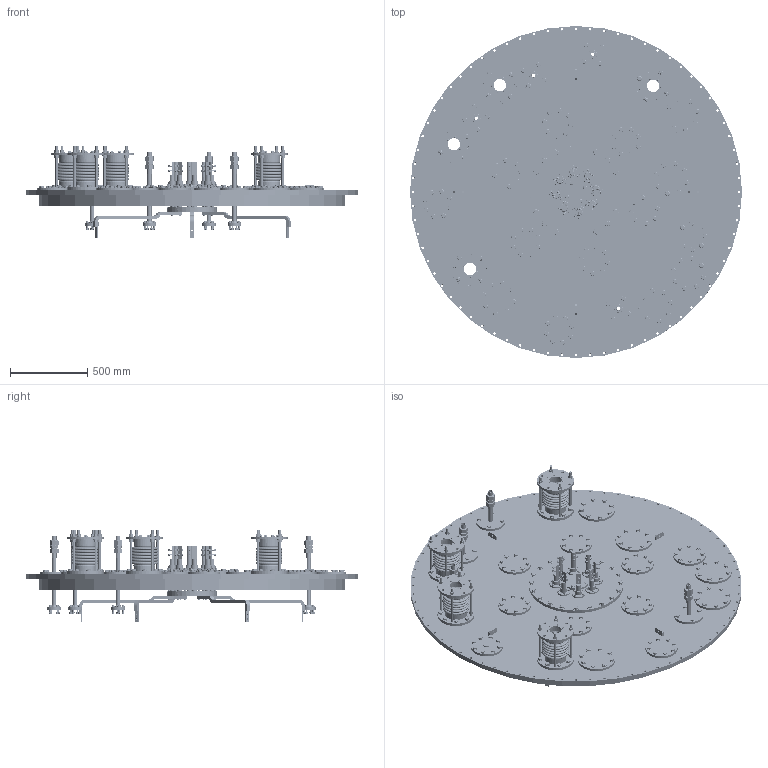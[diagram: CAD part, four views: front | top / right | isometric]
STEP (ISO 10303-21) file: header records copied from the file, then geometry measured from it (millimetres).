
FILE_DESCRIPTION(('CATIA V5 STEP Exchange'),'2;1');
FILE_NAME('V:\enea.it\fra\user\micozzi\CATIA\LoadAssembly_ASG\Modelli_Montati_1-12-08\FLANGIA_SUPERIORE_Completa.stp','2010-10-27T13:21:35+00:00',('none'),('none'),'CATIA Version 5 Release 19 SP 2 (IN-10)','CATIA V5 STEP AP203','none');
FILE_SCHEMA(('CONFIG_CONTROL_DESIGN'));
Length unit declared in the file: millimetre
Products named in the file (34): asm flangia superiore cdv; asm flangia passanti superiori; asm passante elettrico; vite M8 + rondella; bullone M8; Raccolto asm passante elettrico di Matrice circolare.2; vite M16 + rondella; Raccolto vite M16 + rondella di Matrice circolare.1; vite M12 + rondella; Raccolto vite M12 + rondella di Matrice circolare.1; asm flangia cieca DN100; vite M16 + rondella_1; Raccolto vite M16 + rondella di Matrice circolare.1_1; Raccolto asm flangia cieca DN100 di Matrice circolare.2; asm flangia cieca DN125; Product1; Raccolto Product1 di Matrice circolare.1; soffietto DN125; vite M16+rondella; Raccolto vite M16+rondella di Matrice circolare.1; puntone; asm vite isolata bobina; Raccolto asm vite isolata bobina di Matrice circolare.2; Raccolto ISO 4026 SCREW M5x16 GRADE A STEEL HEX SOCKET SET WITH FLAT POINT di Matrice circolare.5; bullone M6; Raccolto bullone M6 di Matrice circolare.2; Raccolto bullone M6 di Matrice circolare.21; passante fluidi; vite su flangia DN80; bullone su flangia DN20; Raccolto bullone su flangia DN20 di Matrice circolare.1; Raccolto vite su flangia DN80 di Matrice circolare.1; flangia cieca DN100 con passante; Raccolto vite M16 + rondella di Matrice circolare.11
Assembly tree (208 placements, depth 6):
  asm flangia superiore cdv
    #58
    asm flangia passanti superiori
      #42294
      asm passante elettrico
        #49795
        #51305
        vite M8 + rondella  x4
          #52311
          #53189
        #53419
        bullone M8  x2
          #53189
          #54127
          #54711
        #55287
      Raccolto asm passante elettrico di Matrice circolare.2
        asm passante elettrico  x7
          #49795
          #51305
          vite M8 + rondella
            #52311
            #53189
          #53419
          bullone M8
            #53189  x2
            #54127
            #54711
          #55287
      vite M16 + rondella
        #55770
        #55987
      Raccolto vite M16 + rondella di Matrice circolare.1
        vite M16 + rondella  x19
          #55770
          #55987
      #56835
      vite M12 + rondella
        #57708
        #57925
      Raccolto vite M12 + rondella di Matrice circolare.1
        vite M12 + rondella  x3
          #57708
          #57925
    asm flangia cieca DN100  x3
      #58611
      vite M16 + rondella_1
        #59916
        #60133
      Raccolto vite M16 + rondella di Matrice circolare.1_1
        vite M16 + rondella_1  x7
          #59916
          #60133
    Raccolto asm flangia cieca DN100 di Matrice circolare.2
      asm flangia cieca DN100  x5
        #58611
        vite M16 + rondella_1
          #59916
          #60133
        Raccolto vite M16 + rondella di Matrice circolare.1_1
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Bounding box: 2152 x 2152 x 597.59 mm (x, y, z)
Volume: 150621878.7 mm3; surface area: 17499448.7 mm2
Topology: 917 solids, 917 shells, 17113 faces, 38132 edges, 23414 vertices
Faces by surface type: cylinder 5766, plane 5219, cone 4764, torus 1364
Entity records: 90219 total; most frequent: CARTESIAN_POINT 17800, ORIENTED_EDGE 15092, DIRECTION 12071, EDGE_CURVE 7546, AXIS2_PLACEMENT_3D 6333, VERTEX_POINT 4558, EDGE_LOOP 4328, CIRCLE 3902
